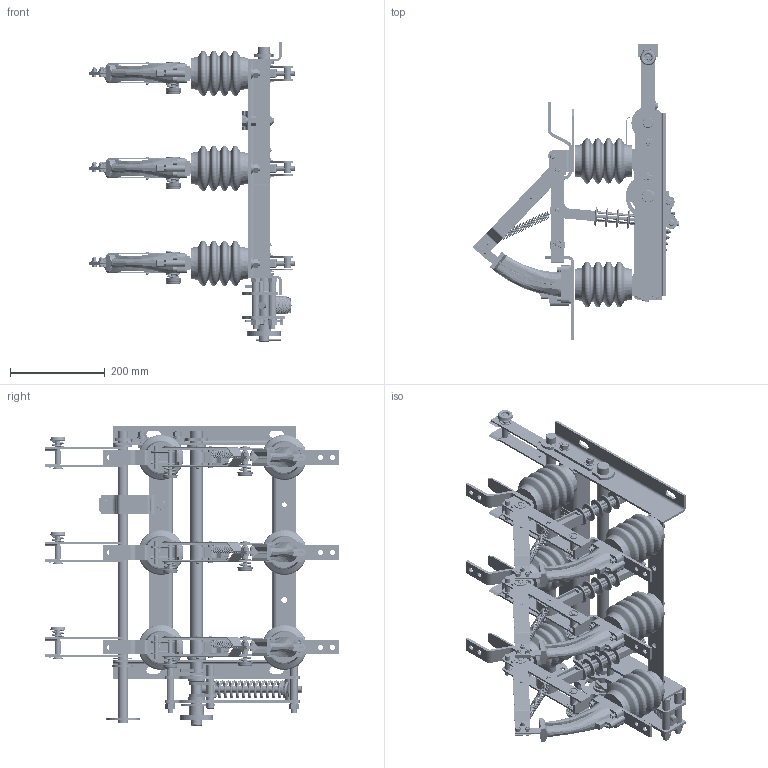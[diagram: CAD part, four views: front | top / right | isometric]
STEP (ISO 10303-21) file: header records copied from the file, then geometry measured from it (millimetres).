
FILE_DESCRIPTION (( 'STEP AP203' ), '1' );
FILE_NAME ('ÂÍÀÏ-10-400-IIç-Ô-ÓÕË2-ÊÝÀÇ.STEP', '2026-09-18T08:09:04', ( '' ), ( '' ), 'SwSTEP 2.0', 'SolidWorks 2018', '' );
FILE_SCHEMA (( 'CONFIG_CONTROL_DESIGN' ));
Products named in the file (1): ÂÍÀÏ-10-400-IIç-Ô-ÓÕË2-ÊÝÀÇ
Bounding box: 433.33 x 621 x 631.5 mm (x, y, z)
Surface area: 1819376.6 mm2 (no closed solid volume)
Topology: 0 solids, 468 shells, 3822 faces, 12194 edges, 8583 vertices
Faces by surface type: plane 1557, cylinder 1218, cone 602, torus 314, bspline 131
Entity records: 229608 total; most frequent: CARTESIAN_POINT 122463, DIRECTION 23811, ORIENTED_EDGE 19107, EDGE_CURVE 12186, AXIS2_PLACEMENT_3D 9447, VERTEX_POINT 8583, CIRCLE 5755, LINE 4917
